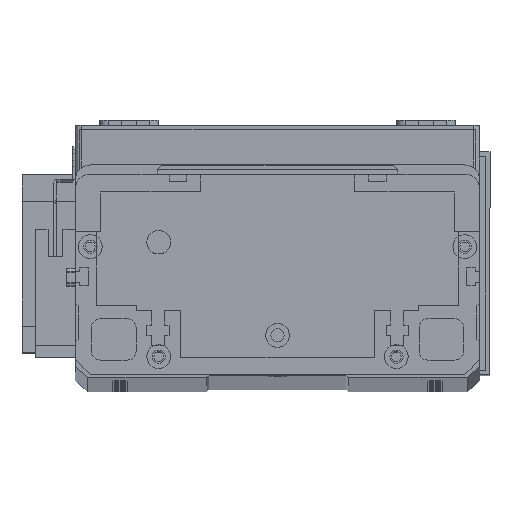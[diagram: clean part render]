
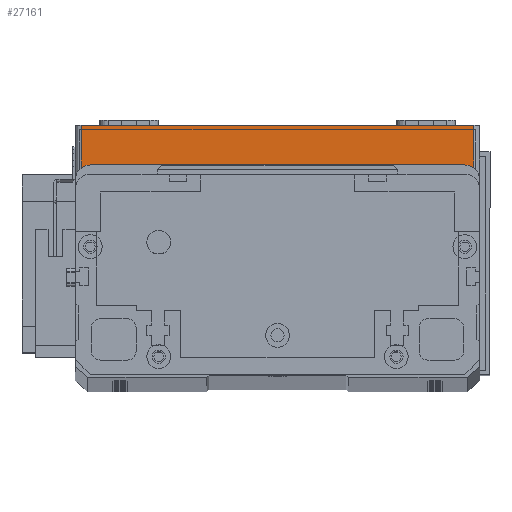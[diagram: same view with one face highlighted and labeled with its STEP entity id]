
A CAD part, top view. The second image highlights one B-rep face of the part: STEP entity #27161.
In plain terms, the highlighted planar face has unit normal (0, 0, 1) as drawn and (0, -1, 0) by its records, which use the part's own axes.
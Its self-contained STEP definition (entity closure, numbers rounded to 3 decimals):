
#195 = VERTEX_POINT ( 'NONE', #8466 ) ;
#1139 = EDGE_CURVE ( 'NONE', #195, #20184, #7577, .T. ) ;
#1884 = DIRECTION ( 'NONE',  ( 1., 0., 0. ) ) ;
#2375 = VERTEX_POINT ( 'NONE', #8507 ) ;
#2827 = CARTESIAN_POINT ( 'NONE',  ( 0., 0., 19.5 ) ) ;
#2899 = AXIS2_PLACEMENT_3D ( 'NONE', #15604, #8526, #25221 ) ;
#4333 = FACE_OUTER_BOUND ( 'NONE', #26272, .T. ) ;
#5410 = VECTOR ( 'NONE', #22751, 1000. ) ;
#6441 = VECTOR ( 'NONE', #16103, 1000. ) ;
#7577 = LINE ( 'NONE', #2827, #19483 ) ;
#8466 = CARTESIAN_POINT ( 'NONE',  ( 2., 0., 19.5 ) ) ;
#8507 = CARTESIAN_POINT ( 'NONE',  ( 2., 0., 0. ) ) ;
#8526 = DIRECTION ( 'NONE',  ( 0., 1., 0. ) ) ;
#8696 = DIRECTION ( 'NONE',  ( 1., 0., 0. ) ) ;
#9135 = EDGE_CURVE ( 'NONE', #195, #2375, #12724, .T. ) ;
#10826 = CARTESIAN_POINT ( 'NONE',  ( 134., 0., 19.5 ) ) ;
#12453 = ORIENTED_EDGE ( 'NONE', *, *, #15513, .T. ) ;
#12724 = LINE ( 'NONE', #27990, #6441 ) ;
#15145 = ORIENTED_EDGE ( 'NONE', *, *, #24764, .T. ) ;
#15513 = EDGE_CURVE ( 'NONE', #2375, #16494, #19890, .T. ) ;
#15604 = CARTESIAN_POINT ( 'NONE',  ( 0., 0., 19.5 ) ) ;
#16103 = DIRECTION ( 'NONE',  ( 0., 0., -1. ) ) ;
#16494 = VERTEX_POINT ( 'NONE', #29301 ) ;
#19294 = ORIENTED_EDGE ( 'NONE', *, *, #1139, .F. ) ;
#19483 = VECTOR ( 'NONE', #8696, 1000. ) ;
#19890 = LINE ( 'NONE', #23304, #24026 ) ;
#20184 = VERTEX_POINT ( 'NONE', #24838 ) ;
#22751 = DIRECTION ( 'NONE',  ( 0., 0., 1. ) ) ;
#22812 = PLANE ( 'NONE',  #2899 ) ;
#23304 = CARTESIAN_POINT ( 'NONE',  ( 0., 0., 0. ) ) ;
#23668 = LINE ( 'NONE', #10826, #5410 ) ;
#24026 = VECTOR ( 'NONE', #1884, 1000. ) ;
#24764 = EDGE_CURVE ( 'NONE', #16494, #20184, #23668, .T. ) ;
#24838 = CARTESIAN_POINT ( 'NONE',  ( 134., 0., 19.5 ) ) ;
#25221 = DIRECTION ( 'NONE',  ( 0., 0., 1. ) ) ;
#26272 = EDGE_LOOP ( 'NONE', ( #19294, #27882, #12453, #15145 ) ) ;
#27161 = ADVANCED_FACE ( 'NONE', ( #4333 ), #22812, .F. ) ;
#27882 = ORIENTED_EDGE ( 'NONE', *, *, #9135, .T. ) ;
#27990 = CARTESIAN_POINT ( 'NONE',  ( 2., 0., 19.5 ) ) ;
#29301 = CARTESIAN_POINT ( 'NONE',  ( 134., 0., 0. ) ) ;
